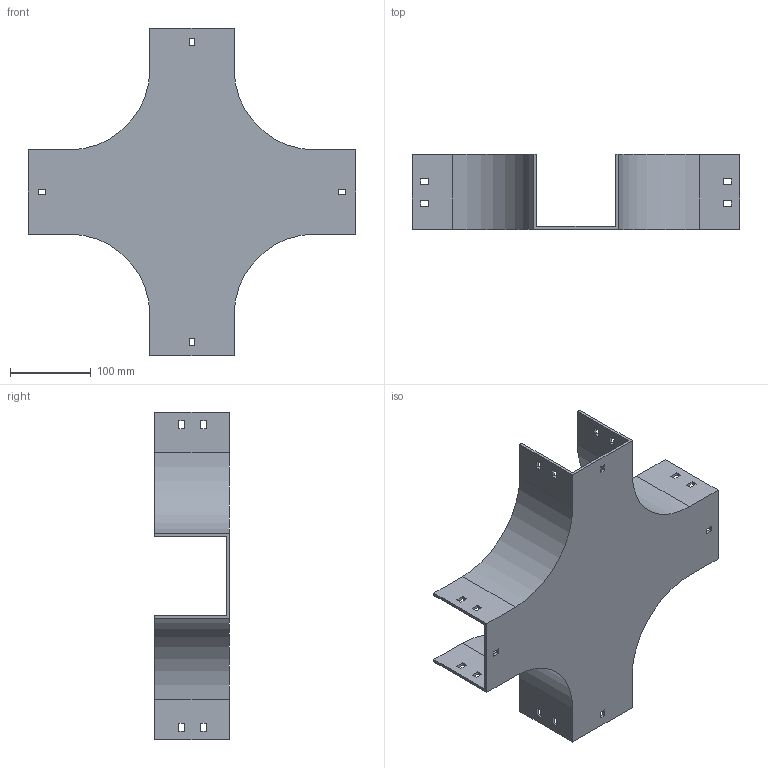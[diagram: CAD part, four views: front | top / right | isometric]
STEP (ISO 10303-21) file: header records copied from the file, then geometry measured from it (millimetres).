
FILE_DESCRIPTION (( 'STEP AP214' ), '1' );
FILE_NAME ('17B1I100.step', '2025-02-21T09:58:37', ( '' ), ( '' ), 'SwSTEP 2.0', 'SolidWorks 2023', '' );
FILE_SCHEMA (( 'AUTOMOTIVE_DESIGN' ));
Length unit declared in the file: millimetre
Products named in the file (1): 17B1I100
Bounding box: 404 x 92.5 x 404 mm (x, y, z)
Volume: 605307.6 mm3; surface area: 355775.2 mm2
Topology: 1 solids, 1 shells, 114 faces, 336 edges, 224 vertices
Faces by surface type: plane 106, cylinder 8
Entity records: 3839 total; most frequent: CARTESIAN_POINT 675, ORIENTED_EDGE 672, DIRECTION 582, EDGE_CURVE 336, LINE 320, VECTOR 320, VERTEX_POINT 224, EDGE_LOOP 154
